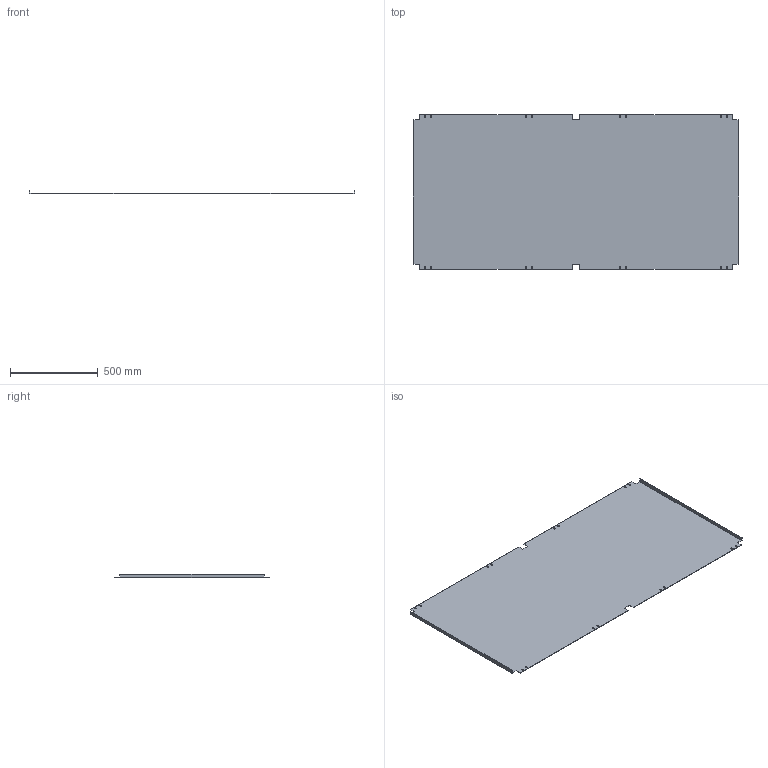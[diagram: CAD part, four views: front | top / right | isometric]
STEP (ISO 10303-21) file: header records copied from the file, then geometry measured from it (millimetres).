
FILE_DESCRIPTION(('Open CASCADE Model'),'2;1');
FILE_NAME('Open CASCADE Shape Model','2025-02-13T17:36:48',('Author'),( 'Open CASCADE'),'Open CASCADE STEP processor 7.8','Open CASCADE 7.8' ,'Unknown');
FILE_SCHEMA(('AUTOMOTIVE_DESIGN { 1 0 10303 214 1 1 1 1 }'));
Length unit declared in the file: millimetre
Products named in the file (1): Solid1
Bounding box: 1850 x 880 x 20 mm (x, y, z)
Volume: 4118495.1 mm3; surface area: 3310352.8 mm2
Topology: 1 solids, 1 shells, 102 faces, 284 edges, 184 vertices
Faces by surface type: plane 66, cylinder 36
Entity records: 3326 total; most frequent: CARTESIAN_POINT 571, ORIENTED_EDGE 568, DIRECTION 562, EDGE_CURVE 284, LINE 212, VECTOR 212, VERTEX_POINT 184, AXIS2_PLACEMENT_3D 175
